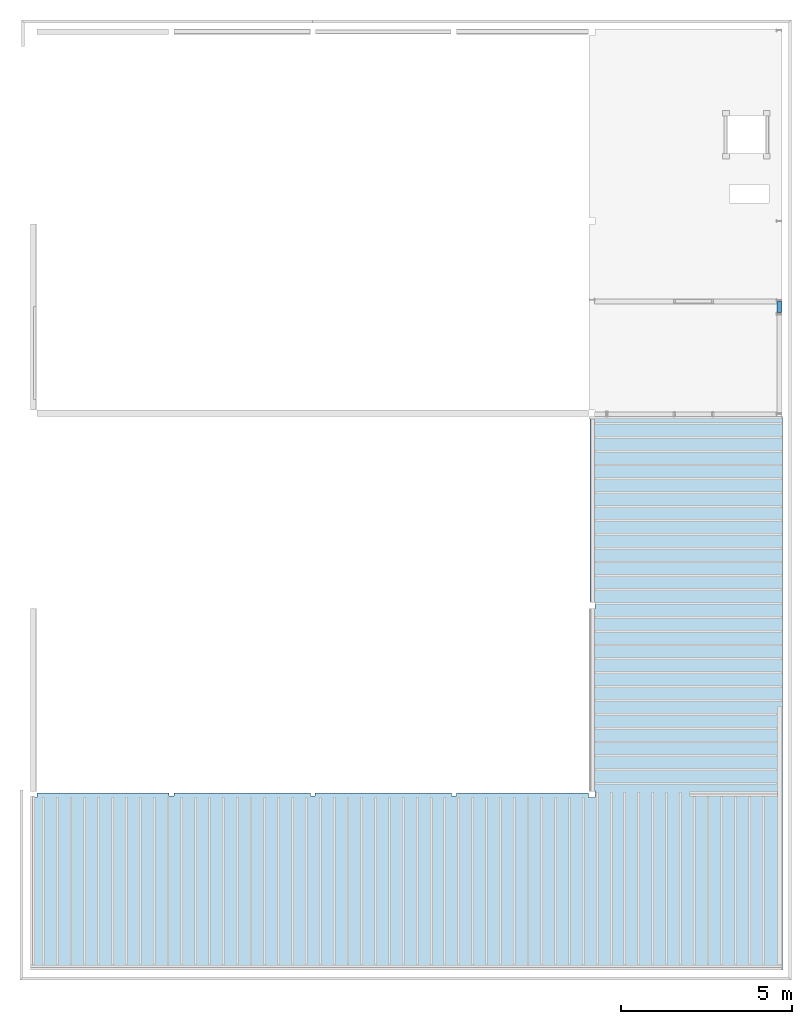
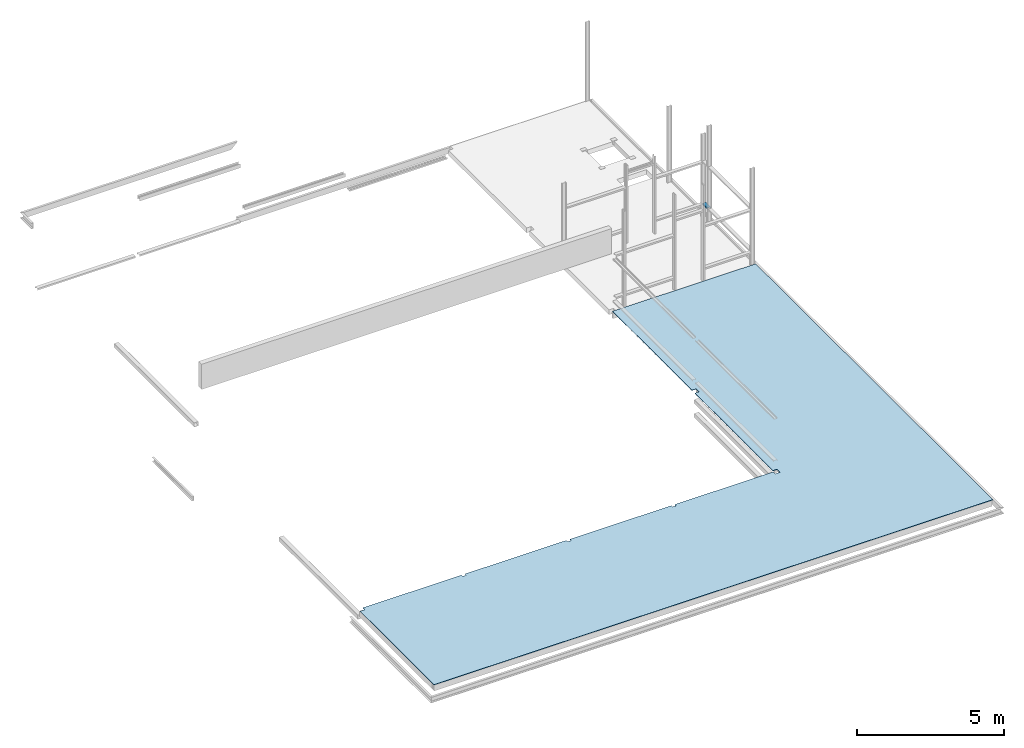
# One storey, part 7 of 8: 1 beam, 1 slab.
"""IFC2X3 building model written with IfcOpenShell, lengths in millimetres."""

from ifc_helpers import new_model, entity, si_unit, converted_unit, derived_unit, direction, frame, frame_2d, origin, place, context, subcontext, project, spatial, polyline, circle_curve, parameter, trimmed, segment, composite_curve, outline, extrude, material, layer, layer_set, layer_usage, type_object, element, save


model = new_model("IFC2X3")

# Units and contexts
model_context = context("Model", 3, precision=0.01, world=origin(), true_north=direction((6.123031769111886e-17, 1.0)))
plan_context = context("Plan", 3, precision=0.01, world=origin(), true_north=direction((6.123031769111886e-17, 1.0)))
body_context = subcontext(model_context, "Body", "Model", "MODEL_VIEW")
ifc_project = project(units=[si_unit("LENGTHUNIT", "METRE", prefix="MILLI"), si_unit("AREAUNIT", "SQUARE_METRE"), si_unit("VOLUMEUNIT", "CUBIC_METRE"), converted_unit("PLANEANGLEUNIT", "DEGREE", entity("IfcPlaneAngleMeasure", 0.017453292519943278), si_unit("PLANEANGLEUNIT", "RADIAN"), dimensions=[0, 0, 0, 0, 0, 0, 0]), si_unit("MASSUNIT", "GRAM", prefix="KILO"), derived_unit("MASSDENSITYUNIT", [(si_unit("MASSUNIT", "GRAM", prefix="KILO"), 1), (si_unit("LENGTHUNIT", "METRE"), -3)]), derived_unit("IONCONCENTRATIONUNIT", [(si_unit("MASSUNIT", "GRAM", prefix="KILO"), 1), (si_unit("LENGTHUNIT", "METRE"), -3)]), derived_unit("MOMENTOFINERTIAUNIT", [(si_unit("LENGTHUNIT", "METRE"), 4)]), si_unit("TIMEUNIT", "SECOND"), si_unit("FREQUENCYUNIT", "HERTZ"), si_unit("THERMODYNAMICTEMPERATUREUNIT", "DEGREE_CELSIUS"), derived_unit("THERMALTRANSMITTANCEUNIT", [(si_unit("MASSUNIT", "GRAM", prefix="KILO"), 1), (si_unit("THERMODYNAMICTEMPERATUREUNIT", "KELVIN"), -1), (si_unit("TIMEUNIT", "SECOND"), -3)]), derived_unit("THERMALCONDUCTANCEUNIT", [(si_unit("MASSUNIT", "GRAM", prefix="KILO"), 1), (si_unit("THERMODYNAMICTEMPERATUREUNIT", "KELVIN"), -1), (si_unit("TIMEUNIT", "SECOND"), -3), (si_unit("LENGTHUNIT", "METRE"), 1)]), derived_unit("VOLUMETRICFLOWRATEUNIT", [(si_unit("LENGTHUNIT", "METRE", prefix="DECI"), 3), (si_unit("TIMEUNIT", "SECOND"), -1)]), derived_unit("MASSFLOWRATEUNIT", [(si_unit("MASSUNIT", "GRAM", prefix="KILO"), 1), (si_unit("TIMEUNIT", "SECOND"), -1)]), derived_unit("ROTATIONALFREQUENCYUNIT", [(si_unit("TIMEUNIT", "SECOND"), -1)]), si_unit("ELECTRICCURRENTUNIT", "AMPERE"), si_unit("ELECTRICVOLTAGEUNIT", "VOLT"), si_unit("POWERUNIT", "WATT"), si_unit("FORCEUNIT", "NEWTON", prefix="KILO"), si_unit("ILLUMINANCEUNIT", "LUX"), si_unit("LUMINOUSFLUXUNIT", "LUMEN"), si_unit("LUMINOUSINTENSITYUNIT", "CANDELA"), si_unit("ENERGYUNIT", "JOULE"), derived_unit("USERDEFINED", [(si_unit("MASSUNIT", "GRAM", prefix="KILO"), -1), (si_unit("LENGTHUNIT", "METRE"), -2), (si_unit("TIMEUNIT", "SECOND"), 3), (si_unit("LUMINOUSFLUXUNIT", "LUMEN"), 1)]), derived_unit("USERDEFINED", [(si_unit("MASSUNIT", "GRAM", prefix="KILO"), 1), (si_unit("TIMEUNIT", "SECOND"), -3), (si_unit("LENGTHUNIT", "METRE"), 3), (si_unit("ELECTRICCURRENTUNIT", "AMPERE"), -2)]), derived_unit("SOUNDPOWERUNIT", [(si_unit("MASSUNIT", "GRAM", prefix="KILO"), 1), (si_unit("TIMEUNIT", "SECOND"), -3), (si_unit("LENGTHUNIT", "METRE"), 2)]), derived_unit("SOUNDPRESSUREUNIT", [(si_unit("MASSUNIT", "GRAM", prefix="KILO"), 1), (si_unit("LENGTHUNIT", "METRE"), -1), (si_unit("TIMEUNIT", "SECOND"), -2)]), derived_unit("LINEARVELOCITYUNIT", [(si_unit("LENGTHUNIT", "METRE"), 1), (si_unit("TIMEUNIT", "SECOND"), -1)]), si_unit("PRESSUREUNIT", "PASCAL"), derived_unit("USERDEFINED", [(si_unit("MASSUNIT", "GRAM", prefix="KILO"), 1), (si_unit("LENGTHUNIT", "METRE"), -2), (si_unit("TIMEUNIT", "SECOND"), -2)]), derived_unit("LINEARFORCEUNIT", [(si_unit("MASSUNIT", "GRAM", prefix="KILO"), 1), (si_unit("TIMEUNIT", "SECOND"), -2)]), derived_unit("PLANARFORCEUNIT", [(si_unit("MASSUNIT", "GRAM", prefix="KILO"), 1), (si_unit("LENGTHUNIT", "METRE"), -1), (si_unit("TIMEUNIT", "SECOND"), -2)]), derived_unit("SPECIFICHEATCAPACITYUNIT", [(si_unit("THERMODYNAMICTEMPERATUREUNIT", "KELVIN"), -1), (si_unit("LENGTHUNIT", "METRE"), 2), (si_unit("TIMEUNIT", "SECOND"), -2)]), derived_unit("HEATFLUXDENSITYUNIT", [(si_unit("MASSUNIT", "GRAM", prefix="KILO"), 1), (si_unit("TIMEUNIT", "SECOND"), -3)]), derived_unit("HEATINGVALUEUNIT", [(si_unit("LENGTHUNIT", "METRE"), 2), (si_unit("TIMEUNIT", "SECOND"), -2)]), derived_unit("VAPORPERMEABILITYUNIT", [(si_unit("LENGTHUNIT", "METRE"), -1), (si_unit("TIMEUNIT", "SECOND"), 1)]), derived_unit("DYNAMICVISCOSITYUNIT", [(si_unit("MASSUNIT", "GRAM", prefix="KILO"), 1), (si_unit("TIMEUNIT", "SECOND"), -1), (si_unit("LENGTHUNIT", "METRE"), -1)]), derived_unit("THERMALEXPANSIONCOEFFICIENTUNIT", [(si_unit("THERMODYNAMICTEMPERATUREUNIT", "KELVIN"), -1)]), derived_unit("MODULUSOFELASTICITYUNIT", [(si_unit("MASSUNIT", "GRAM", prefix="KILO"), 1), (si_unit("LENGTHUNIT", "METRE"), -1), (si_unit("TIMEUNIT", "SECOND"), -2)]), derived_unit("ISOTHERMALMOISTURECAPACITYUNIT", [(si_unit("MASSUNIT", "GRAM", prefix="KILO"), -1), (si_unit("LENGTHUNIT", "METRE"), 3)]), derived_unit("MOISTUREDIFFUSIVITYUNIT", [(si_unit("TIMEUNIT", "SECOND"), -1), (si_unit("LENGTHUNIT", "METRE"), 2)]), derived_unit("MASSPERLENGTHUNIT", [(si_unit("MASSUNIT", "GRAM", prefix="KILO"), 1), (si_unit("LENGTHUNIT", "METRE"), -1)]), derived_unit("THERMALRESISTANCEUNIT", [(si_unit("MASSUNIT", "GRAM", prefix="KILO"), -1), (si_unit("TIMEUNIT", "SECOND"), 3), (si_unit("THERMODYNAMICTEMPERATUREUNIT", "KELVIN"), 1)]), derived_unit("ACCELERATIONUNIT", [(si_unit("LENGTHUNIT", "METRE"), 1), (si_unit("TIMEUNIT", "SECOND"), -2)]), derived_unit("ANGULARVELOCITYUNIT", [(si_unit("TIMEUNIT", "SECOND"), -1), (si_unit("PLANEANGLEUNIT", "RADIAN"), 1)]), derived_unit("LINEARSTIFFNESSUNIT", [(si_unit("MASSUNIT", "GRAM", prefix="KILO"), 1), (si_unit("TIMEUNIT", "SECOND"), -2)]), derived_unit("WARPINGCONSTANTUNIT", [(si_unit("LENGTHUNIT", "METRE"), 6)]), derived_unit("LINEARMOMENTUNIT", [(si_unit("MASSUNIT", "GRAM", prefix="KILO"), 1), (si_unit("LENGTHUNIT", "METRE"), 1), (si_unit("TIMEUNIT", "SECOND"), -2)]), derived_unit("TORQUEUNIT", [(si_unit("MASSUNIT", "GRAM", prefix="KILO"), 1), (si_unit("LENGTHUNIT", "METRE"), 2), (si_unit("TIMEUNIT", "SECOND"), -2)])], contexts=[model_context, plan_context])

# Site, building, storey
site_placement = place(None, origin())
site = spatial("IfcSite", under=ifc_project, at=site_placement, Name="Default", CompositionType="ELEMENT")
building_placement = place(site_placement, origin())
building = spatial("IfcBuilding", under=site, at=building_placement, CompositionType="ELEMENT")
storey_placement = place(building_placement, frame((0.0, 0.0, 3410.0)))
storey = spatial("IfcBuildingStorey", under=building, at=storey_placement, Name="01 eerste verdieping", CompositionType="ELEMENT", Elevation=3410.0000000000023)

# Beam
ifc_material_1 = material(Name="constructiestaal S235")
beam_type = type_object("IfcBeamType", Name="28_SF_LIB_UNP ligger_dw:UNP140 (S235)", PredefinedType="NOTDEFINED")
beam_placement = place(storey_placement, frame((55909.69293735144, 30440.670485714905, 540.0), z_axis=(0.0, 0.0, 1.0), x_axis=(0.0, 1.0, 0.0)))
element("IfcBeam", 1, at=beam_placement, inside=storey, type_object=beam_type, material=ifc_material_1, Name="28_SF_LIB_UNP ligger_dw:UNP140 (S235)", ObjectType="28_SF_LIB_UNP ligger_dw:UNP140 (S235)", context=body_context, shape_type="SweptSolid", body=[
    extrude(outline(composite_curve([segment(polyline([(-33.16666666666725, -69.93760274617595), (26.833333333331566, -69.93760274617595)]), True, "CONTINUOUS"), segment(polyline([(26.833333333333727, -69.93760274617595), (26.833333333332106, -65.16520177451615)]), True, "CONTINUOUS"), segment(trimmed(circle_curve(frame_2d((21.833333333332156, -65.16520177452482), x_axis=(1.0, 0.0)), 5.000000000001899), [parameter(0.0)], [parameter(89.99999999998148)], True, "PARAMETER"), True, "CONTINUOUS"), segment(polyline([(21.833333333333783, -60.165201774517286), (-16.166666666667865, -58.14041273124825)]), True, "CONTINUOUS"), segment(trimmed(circle_curve(frame_2d((-16.166666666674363, -48.14041273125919), x_axis=(0.0, -1.0)), 9.999999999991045), [parameter(269.9999999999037)], [parameter(0.0)], True, "PARAMETER"), False, "CONTINUOUS"), segment(polyline([(-26.166666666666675, -48.14041273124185), (-26.1666666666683, 47.62586063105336)]), True, "CONTINUOUS"), segment(trimmed(circle_curve(frame_2d((-16.166666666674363, 47.625860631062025), x_axis=(-1.0, 0.0)), 9.999999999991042), [parameter(269.9999999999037)], [parameter(0.0)], True, "PARAMETER"), False, "CONTINUOUS"), segment(polyline([(-16.16666666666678, 57.62586063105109), (21.833333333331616, 60.554959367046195)]), True, "CONTINUOUS"), segment(trimmed(circle_curve(frame_2d((21.833333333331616, 65.55495936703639), x_axis=(0.0, -1.0)), 5.0000000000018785), [parameter(0.0)], [parameter(89.99999999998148)], True, "PARAMETER"), True, "CONTINUOUS"), segment(polyline([(26.833333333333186, 65.55495936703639), (26.833333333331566, 70.06239725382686)]), True, "CONTINUOUS"), segment(polyline([(26.833333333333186, 70.06239725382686), (-33.166666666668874, 70.06239725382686)]), True, "CONTINUOUS"), segment(polyline([(-33.16666666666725, 70.06239725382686), (-33.166666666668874, -69.93760274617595)]), True, "CONTINUOUS")], self_intersect=False)), frame((0.0, -70.06239725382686, -33.166666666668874), z_axis=(1.0, 0.0, 0.0), x_axis=(0.0, 0.0, -1.0)), (0.0, 0.0, 1.0), 320.99985449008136),
])

# Slab
ifc_material_2 = material(Name="underlayment")
ifc_layer = layer(ifc_material_2, 18.0)
ifc_layer_set = layer_set([ifc_layer], Name="Floor:23.20_FL_LB_underlayment 18_dw")
ifc_layer_usage = layer_usage(ifc_layer_set, "AXIS3", "POSITIVE", 0.0)
slab_type = type_object("IfcSlabType", Name="Floor:23.20_FL_LB_underlayment 18_dw", PredefinedType="FLOOR", material=ifc_layer_set)
slab_placement = place(storey_placement, origin())
element("IfcSlab", 2, at=slab_placement, inside=storey, type_object=slab_type, material=ifc_layer_usage, Name="Floor:23.20_FL_LB_underlayment 18_dw", ObjectType="Floor:23.20_FL_LB_underlayment 18_dw", PredefinedType="FLOOR", context=body_context, shape_type="SweptSolid", body=[
    extrude(outline(polyline([(-6340.321491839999, -10989.285714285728), (-1300.321615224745, -10989.285714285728), (-1300.321615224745, -10799.285714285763), (-1168.3213684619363, -10799.285714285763), (-1168.3213684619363, -6929.285714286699), (-1254.8213684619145, -6929.285714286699), (-1254.8213684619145, -6789.285714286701), (-1168.3213684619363, -6789.285714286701), (-1168.3213684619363, -2799.2857142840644), (-1254.8213684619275, -2799.2857142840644), (-1254.8213684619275, -2659.2857142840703), (-1168.3213684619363, -2659.2857142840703), (-1168.3213684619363, 1330.7142857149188), (-1254.8213684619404, 1330.7142857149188), (-1254.8213684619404, 1470.7142857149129), (-1168.3213684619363, 1470.7142857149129), (-1168.3213684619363, 5340.714285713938), (-1300.3214918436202, 5340.714285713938), (-1300.3214918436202, 5530.714285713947), (-1100.3214918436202, 5530.714285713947), (-1100.3214918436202, 5375.714285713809), (4219.678508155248, 5375.714285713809), (4219.678508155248, 5530.714285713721), (4419.678508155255, 5530.714285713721), (4419.678508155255, 5375.714285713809), (9839.678653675, 5375.714285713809), (9839.678653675, 11010.714285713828), (-6340.321491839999, 11010.714285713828), (-6340.321491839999, -10989.285714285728)])), frame((45055.47865163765, 17552.991832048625, 11.874999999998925), z_axis=(0.0, 0.0, -1.0), x_axis=(0.0, 1.0, 0.0)), (0.0, 0.0, 1.0), 18.000000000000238),
])

save(model, "model.ifc")
